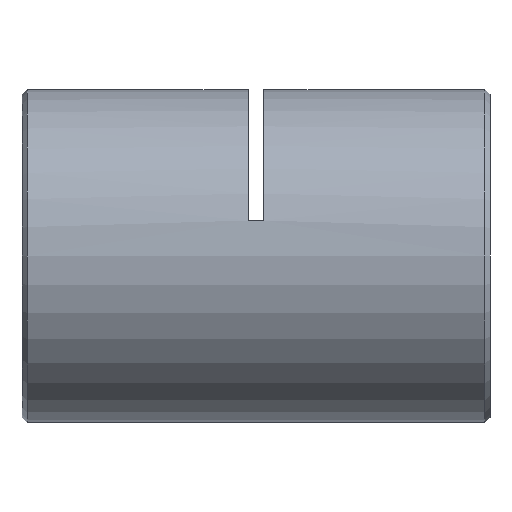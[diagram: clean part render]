
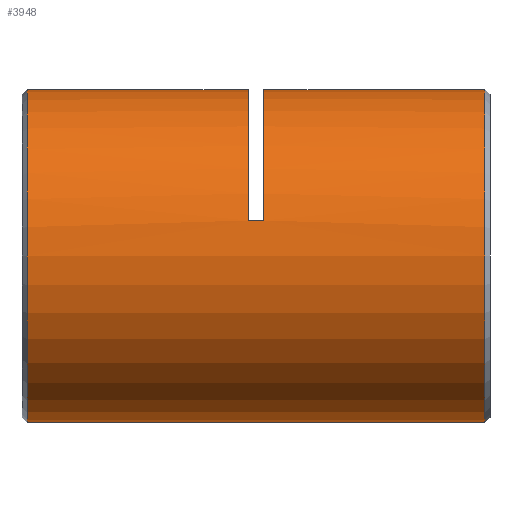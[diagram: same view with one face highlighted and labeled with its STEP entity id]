
A CAD part, left-side view. The second image highlights one B-rep face of the part: STEP entity #3948.
In plain terms, the highlighted cylindrical face has radius 16 mm (diameter 32 mm), a partial arc.
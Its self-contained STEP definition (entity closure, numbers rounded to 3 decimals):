
#75 = AXIS2_PLACEMENT_3D ( 'NONE', #1732, #5119, #5181 ) ;
#140 = AXIS2_PLACEMENT_3D ( 'NONE', #5370, #2880, #4858 ) ;
#304 = EDGE_CURVE ( 'NONE', #2327, #4933, #6008, .T. ) ;
#499 = VECTOR ( 'NONE', #1587, 1000. ) ;
#555 = VERTEX_POINT ( 'NONE', #2694 ) ;
#851 = EDGE_CURVE ( 'NONE', #5217, #5748, #3121, .T. ) ;
#893 = VERTEX_POINT ( 'NONE', #4938 ) ;
#1074 = CARTESIAN_POINT ( 'NONE',  ( 0., 0.75, 0. ) ) ;
#1082 = ORIENTED_EDGE ( 'NONE', *, *, #304, .F. ) ;
#1187 = VECTOR ( 'NONE', #4605, 1000. ) ;
#1214 = CIRCLE ( 'NONE', #75, 16. ) ;
#1336 = CARTESIAN_POINT ( 'NONE',  ( 0., 0., 0. ) ) ;
#1351 = VECTOR ( 'NONE', #1928, 1000. ) ;
#1369 = VERTEX_POINT ( 'NONE', #3366 ) ;
#1516 = DIRECTION ( 'NONE',  ( 0., -1., 0. ) ) ;
#1517 = DIRECTION ( 'NONE',  ( 0., 1., 0. ) ) ;
#1567 = CARTESIAN_POINT ( 'NONE',  ( 0., 44.75, 0. ) ) ;
#1582 = EDGE_CURVE ( 'NONE', #1369, #555, #5121, .T. ) ;
#1587 = DIRECTION ( 'NONE',  ( 0., 1., 0. ) ) ;
#1732 = CARTESIAN_POINT ( 'NONE',  ( 0., 22., 0. ) ) ;
#1742 = ORIENTED_EDGE ( 'NONE', *, *, #4311, .F. ) ;
#1803 = CYLINDRICAL_SURFACE ( 'NONE', #4612, 16. ) ;
#1928 = DIRECTION ( 'NONE',  ( 0., 1., 0. ) ) ;
#2048 = ORIENTED_EDGE ( 'NONE', *, *, #4240, .T. ) ;
#2180 = DIRECTION ( 'NONE',  ( 0., 0., 1. ) ) ;
#2301 = CARTESIAN_POINT ( 'NONE',  ( 0., 23.5, 16. ) ) ;
#2327 = VERTEX_POINT ( 'NONE', #4648 ) ;
#2418 = LINE ( 'NONE', #4374, #6344 ) ;
#2485 = ORIENTED_EDGE ( 'NONE', *, *, #851, .T. ) ;
#2610 = ORIENTED_EDGE ( 'NONE', *, *, #3000, .T. ) ;
#2694 = CARTESIAN_POINT ( 'NONE',  ( 0., 22., 16. ) ) ;
#2852 = EDGE_CURVE ( 'NONE', #893, #5217, #3767, .T. ) ;
#2856 = CARTESIAN_POINT ( 'NONE',  ( 0., 44.75, 16. ) ) ;
#2880 = DIRECTION ( 'NONE',  ( 0., 1., 0. ) ) ;
#3000 = EDGE_CURVE ( 'NONE', #3319, #4933, #6296, .T. ) ;
#3010 = CARTESIAN_POINT ( 'NONE',  ( -15.632, 23.5, 3.413 ) ) ;
#3018 = DIRECTION ( 'NONE',  ( 0., 0., -1. ) ) ;
#3121 = CIRCLE ( 'NONE', #140, 16. ) ;
#3231 = DIRECTION ( 'NONE',  ( 0., 1., 0. ) ) ;
#3263 = FACE_OUTER_BOUND ( 'NONE', #5058, .T. ) ;
#3319 = VERTEX_POINT ( 'NONE', #2856 ) ;
#3366 = CARTESIAN_POINT ( 'NONE',  ( 0., 0.75, 16. ) ) ;
#3384 = AXIS2_PLACEMENT_3D ( 'NONE', #1074, #1517, #5966 ) ;
#3507 = AXIS2_PLACEMENT_3D ( 'NONE', #1567, #1516, #3018 ) ;
#3553 = CARTESIAN_POINT ( 'NONE',  ( 0., 0., -16. ) ) ;
#3693 = ORIENTED_EDGE ( 'NONE', *, *, #2852, .T. ) ;
#3767 = LINE ( 'NONE', #3802, #1351 ) ;
#3802 = CARTESIAN_POINT ( 'NONE',  ( -15.632, 22.75, 3.413 ) ) ;
#3895 = DIRECTION ( 'NONE',  ( 0., 1., 0. ) ) ;
#3948 = ADVANCED_FACE ( 'NONE', ( #3263 ), #1803, .T. ) ;
#4200 = CIRCLE ( 'NONE', #3384, 16. ) ;
#4240 = EDGE_CURVE ( 'NONE', #2327, #1369, #4200, .T. ) ;
#4311 = EDGE_CURVE ( 'NONE', #893, #555, #1214, .T. ) ;
#4374 = CARTESIAN_POINT ( 'NONE',  ( 0., 0., 16. ) ) ;
#4598 = CARTESIAN_POINT ( 'NONE',  ( 0., 44.75, -16. ) ) ;
#4605 = DIRECTION ( 'NONE',  ( 0., 1., 0. ) ) ;
#4612 = AXIS2_PLACEMENT_3D ( 'NONE', #1336, #3231, #2180 ) ;
#4627 = ORIENTED_EDGE ( 'NONE', *, *, #1582, .T. ) ;
#4644 = ORIENTED_EDGE ( 'NONE', *, *, #4881, .T. ) ;
#4648 = CARTESIAN_POINT ( 'NONE',  ( 0., 0.75, -16. ) ) ;
#4858 = DIRECTION ( 'NONE',  ( 0., 0., 1. ) ) ;
#4881 = EDGE_CURVE ( 'NONE', #5748, #3319, #2418, .T. ) ;
#4933 = VERTEX_POINT ( 'NONE', #4598 ) ;
#4938 = CARTESIAN_POINT ( 'NONE',  ( -15.632, 22., 3.413 ) ) ;
#5058 = EDGE_LOOP ( 'NONE', ( #1082, #2048, #4627, #1742, #3693, #2485, #4644, #2610 ) ) ;
#5119 = DIRECTION ( 'NONE',  ( 0., 1., 0. ) ) ;
#5121 = LINE ( 'NONE', #5160, #1187 ) ;
#5160 = CARTESIAN_POINT ( 'NONE',  ( 0., 0., 16. ) ) ;
#5181 = DIRECTION ( 'NONE',  ( 0., 0., 1. ) ) ;
#5217 = VERTEX_POINT ( 'NONE', #3010 ) ;
#5370 = CARTESIAN_POINT ( 'NONE',  ( 0., 23.5, 0. ) ) ;
#5748 = VERTEX_POINT ( 'NONE', #2301 ) ;
#5966 = DIRECTION ( 'NONE',  ( 0., 0., 1. ) ) ;
#6008 = LINE ( 'NONE', #3553, #499 ) ;
#6296 = CIRCLE ( 'NONE', #3507, 16. ) ;
#6344 = VECTOR ( 'NONE', #3895, 1000. ) ;
